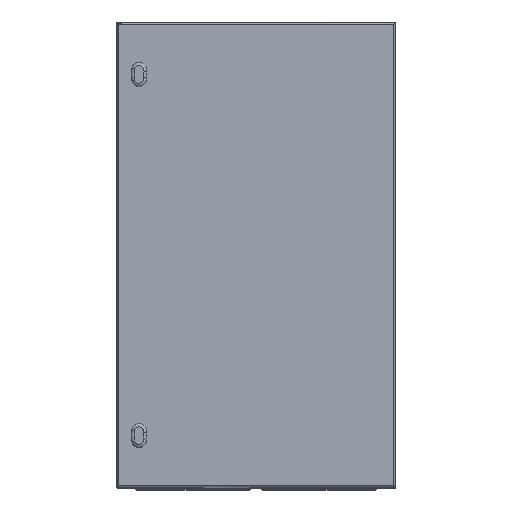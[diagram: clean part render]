
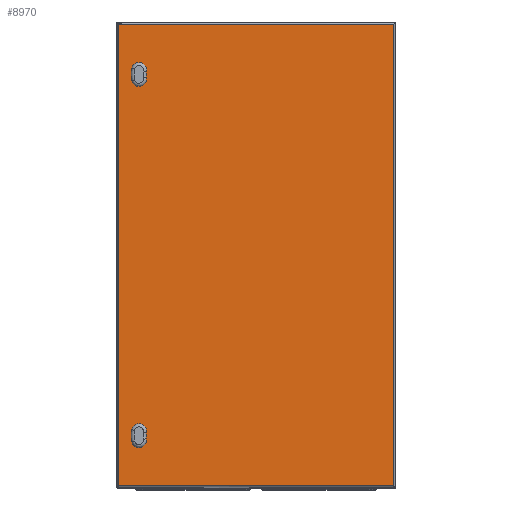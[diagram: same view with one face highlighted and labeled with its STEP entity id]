
A CAD part, front view. The second image highlights one B-rep face of the part: STEP entity #8970.
In plain terms, the highlighted planar face has unit normal (0, -1, 0).
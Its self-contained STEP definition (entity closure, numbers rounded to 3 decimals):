
#612=LINE('',#14420,#1132);
#613=LINE('',#14423,#1133);
#614=LINE('',#14425,#1134);
#615=LINE('',#14427,#1135);
#1132=VECTOR('',#11523,1000.);
#1133=VECTOR('',#11524,1000.);
#1134=VECTOR('',#11525,1000.);
#1135=VECTOR('',#11526,1000.);
#2134=ORIENTED_EDGE('',*,*,#4170,.F.);
#2135=ORIENTED_EDGE('',*,*,#4171,.T.);
#2136=ORIENTED_EDGE('',*,*,#4172,.T.);
#2137=ORIENTED_EDGE('',*,*,#4173,.T.);
#2138=ORIENTED_EDGE('',*,*,#4174,.F.);
#2139=ORIENTED_EDGE('',*,*,#4175,.T.);
#2140=ORIENTED_EDGE('',*,*,#4176,.T.);
#2141=ORIENTED_EDGE('',*,*,#4177,.T.);
#2142=ORIENTED_EDGE('',*,*,#4178,.F.);
#2143=ORIENTED_EDGE('',*,*,#4179,.F.);
#2144=ORIENTED_EDGE('',*,*,#4180,.T.);
#2145=ORIENTED_EDGE('',*,*,#4181,.T.);
#4170=EDGE_CURVE('',#5256,#5257,#6002,.T.);
#4171=EDGE_CURVE('',#5256,#5258,#6003,.T.);
#4172=EDGE_CURVE('',#5258,#5259,#6004,.T.);
#4173=EDGE_CURVE('',#5259,#5257,#6005,.T.);
#4174=EDGE_CURVE('',#5260,#5261,#6006,.T.);
#4175=EDGE_CURVE('',#5260,#5262,#6007,.T.);
#4176=EDGE_CURVE('',#5262,#5263,#6008,.T.);
#4177=EDGE_CURVE('',#5263,#5261,#6009,.T.);
#4178=EDGE_CURVE('',#5264,#5265,#612,.F.);
#4179=EDGE_CURVE('',#5266,#5264,#613,.T.);
#4180=EDGE_CURVE('',#5266,#5267,#614,.F.);
#4181=EDGE_CURVE('',#5267,#5265,#615,.T.);
#5256=VERTEX_POINT('',#14405);
#5257=VERTEX_POINT('',#14406);
#5258=VERTEX_POINT('',#14408);
#5259=VERTEX_POINT('',#14410);
#5260=VERTEX_POINT('',#14413);
#5261=VERTEX_POINT('',#14414);
#5262=VERTEX_POINT('',#14416);
#5263=VERTEX_POINT('',#14418);
#5264=VERTEX_POINT('',#14421);
#5265=VERTEX_POINT('',#14422);
#5266=VERTEX_POINT('',#14424);
#5267=VERTEX_POINT('',#14426);
#6002=CIRCLE('',#9772,34.3);
#6003=CIRCLE('',#9773,16.2);
#6004=CIRCLE('',#9774,60.7);
#6005=CIRCLE('',#9775,16.2);
#6006=CIRCLE('',#9776,34.3);
#6007=CIRCLE('',#9777,16.2);
#6008=CIRCLE('',#9778,60.7);
#6009=CIRCLE('',#9779,16.2);
#6735=EDGE_LOOP('',(#2134,#2135,#2136,#2137));
#6736=EDGE_LOOP('',(#2138,#2139,#2140,#2141));
#6737=EDGE_LOOP('',(#2142,#2143,#2144,#2145));
#7807=FACE_BOUND('',#6735,.T.);
#7808=FACE_BOUND('',#6736,.T.);
#7809=FACE_BOUND('',#6737,.T.);
#8664=PLANE('',#9771);
#8970=ADVANCED_FACE('',(#7807,#7808,#7809),#8664,.F.);
#9771=AXIS2_PLACEMENT_3D('',#14403,#11505,#11506);
#9772=AXIS2_PLACEMENT_3D('',#14404,#11507,#11508);
#9773=AXIS2_PLACEMENT_3D('',#14407,#11509,#11510);
#9774=AXIS2_PLACEMENT_3D('',#14409,#11511,#11512);
#9775=AXIS2_PLACEMENT_3D('',#14411,#11513,#11514);
#9776=AXIS2_PLACEMENT_3D('',#14412,#11515,#11516);
#9777=AXIS2_PLACEMENT_3D('',#14415,#11517,#11518);
#9778=AXIS2_PLACEMENT_3D('',#14417,#11519,#11520);
#9779=AXIS2_PLACEMENT_3D('',#14419,#11521,#11522);
#11505=DIRECTION('',(0.,1.,0.));
#11506=DIRECTION('',(0.,0.,1.));
#11507=DIRECTION('',(0.,1.,0.));
#11508=DIRECTION('',(1.,0.,0.));
#11509=DIRECTION('',(0.,1.,0.));
#11510=DIRECTION('',(1.,0.,0.));
#11511=DIRECTION('',(0.,1.,0.));
#11512=DIRECTION('',(1.,0.,0.));
#11513=DIRECTION('',(0.,1.,0.));
#11514=DIRECTION('',(1.,0.,0.));
#11515=DIRECTION('',(0.,1.,0.));
#11516=DIRECTION('',(1.,0.,0.));
#11517=DIRECTION('',(0.,1.,0.));
#11518=DIRECTION('',(1.,0.,0.));
#11519=DIRECTION('',(0.,1.,0.));
#11520=DIRECTION('',(1.,0.,0.));
#11521=DIRECTION('',(0.,1.,0.));
#11522=DIRECTION('',(1.,0.,0.));
#11523=DIRECTION('',(0.,0.,-1.));
#11524=DIRECTION('',(-1.,0.,0.));
#11525=DIRECTION('',(0.,0.,-1.));
#11526=DIRECTION('',(-1.,0.,0.));
#14403=CARTESIAN_POINT('',(0.,-17.,0.));
#14404=CARTESIAN_POINT('',(-201.402,-17.,-387.5));
#14405=CARTESIAN_POINT('',(-235.089,-17.,-393.952));
#14406=CARTESIAN_POINT('',(-235.089,-17.,-381.048));
#14407=CARTESIAN_POINT('',(-251.,-17.,-397.));
#14408=CARTESIAN_POINT('',(-266.827,-17.,-400.458));
#14409=CARTESIAN_POINT('',(-207.526,-17.,-387.5));
#14410=CARTESIAN_POINT('',(-266.827,-17.,-374.542));
#14411=CARTESIAN_POINT('',(-251.,-17.,-378.));
#14412=CARTESIAN_POINT('',(-201.402,-17.,387.5));
#14413=CARTESIAN_POINT('',(-235.089,-17.,381.048));
#14414=CARTESIAN_POINT('',(-235.089,-17.,393.952));
#14415=CARTESIAN_POINT('',(-251.,-17.,378.));
#14416=CARTESIAN_POINT('',(-266.827,-17.,374.542));
#14417=CARTESIAN_POINT('',(-207.526,-17.,387.5));
#14418=CARTESIAN_POINT('',(-266.827,-17.,400.458));
#14419=CARTESIAN_POINT('',(-251.,-17.,397.));
#14420=CARTESIAN_POINT('',(-295.,-17.,500.));
#14421=CARTESIAN_POINT('',(-295.,-17.,-495.));
#14422=CARTESIAN_POINT('',(-295.,-17.,495.));
#14423=CARTESIAN_POINT('',(300.,-17.,-495.));
#14424=CARTESIAN_POINT('',(295.,-17.,-495.));
#14425=CARTESIAN_POINT('',(295.,-17.,500.));
#14426=CARTESIAN_POINT('',(295.,-17.,495.));
#14427=CARTESIAN_POINT('',(300.,-17.,495.));
